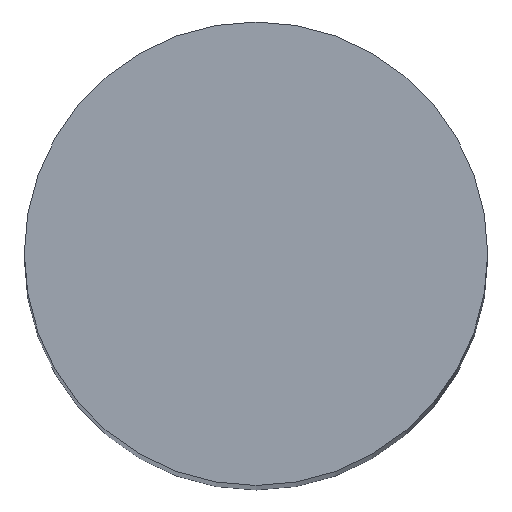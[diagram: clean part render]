
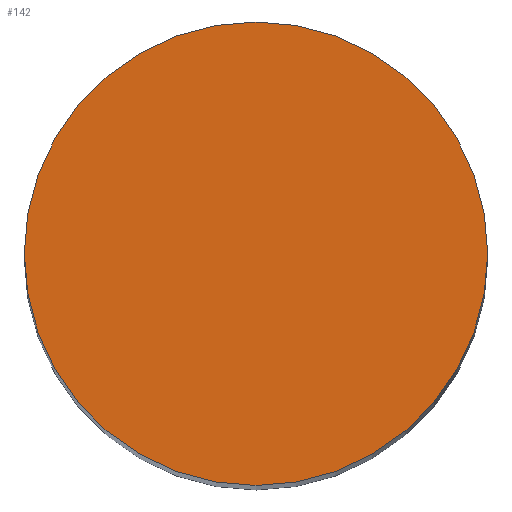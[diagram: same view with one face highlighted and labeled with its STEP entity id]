
A CAD part, top view. The second image highlights one B-rep face of the part: STEP entity #142.
In plain terms, the highlighted planar face has unit normal (0, 0, 1).
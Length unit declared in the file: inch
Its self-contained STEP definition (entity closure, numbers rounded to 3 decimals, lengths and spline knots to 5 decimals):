
#77=CARTESIAN_POINT('',(0.0,-0.25,3.0));
#78=VERTEX_POINT('',#77);
#85=CARTESIAN_POINT('',(0.0,0.25,3.0));
#86=VERTEX_POINT('',#85);
#87=CARTESIAN_POINT('',(0.0,0.0,3.0));
#88=DIRECTION('',(0.0,-0.0,-1.0));
#89=DIRECTION('',(0.0,1.0,-0.0));
#90=AXIS2_PLACEMENT_3D('',#87,#88,#89);
#91=CIRCLE('',#90,0.25);
#92=EDGE_CURVE('no 989',#78,#86,#91,.T.);
#118=CARTESIAN_POINT('',(0.0,0.0,3.0));
#119=DIRECTION('',(0.0,-0.0,-1.0));
#120=DIRECTION('',(0.0,1.0,-0.0));
#121=AXIS2_PLACEMENT_3D('',#118,#119,#120);
#122=CIRCLE('',#121,0.25);
#123=EDGE_CURVE('no 993',#86,#78,#122,.T.);
#133=ORIENTED_EDGE('',*,*,#92,.F.);
#134=ORIENTED_EDGE('',*,*,#123,.F.);
#135=EDGE_LOOP('',(#133,#134));
#136=FACE_OUTER_BOUND('',#135,.T.);
#137=CARTESIAN_POINT('',(0.25,0.0,3.0));
#138=DIRECTION('',(0.0,0.0,1.0));
#139=DIRECTION('',(0.0,-1.0,0.0));
#140=AXIS2_PLACEMENT_3D('',#137,#138,#139);
#141=PLANE('',#140);
#142=ADVANCED_FACE('no 1060',(#136),#141,.T.);
